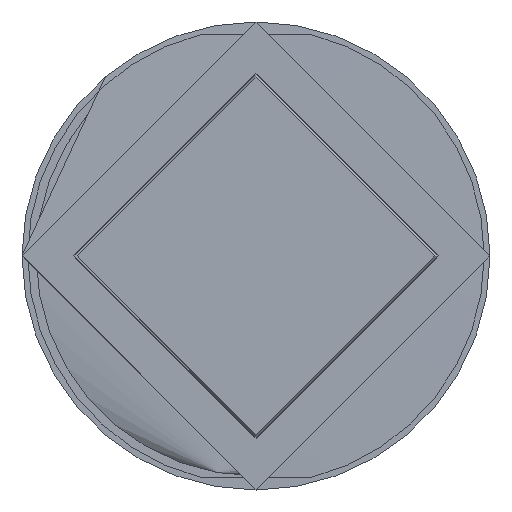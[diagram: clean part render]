
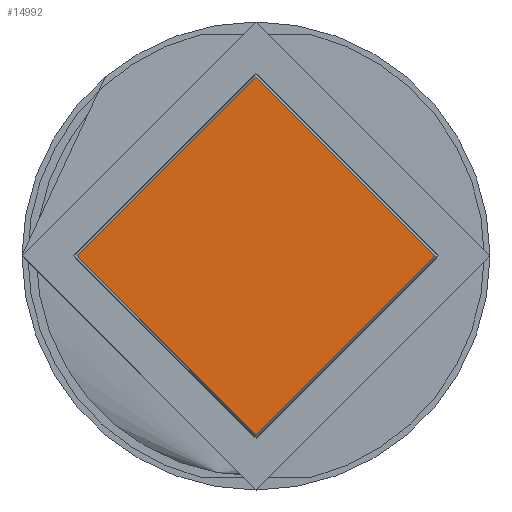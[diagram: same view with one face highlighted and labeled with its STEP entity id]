
A CAD part, top view. The second image highlights one B-rep face of the part: STEP entity #14992.
In plain terms, the highlighted planar face has unit normal (0, 0, 1).
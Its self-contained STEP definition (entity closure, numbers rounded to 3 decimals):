
#2732=ORIENTED_EDGE('',*,*,#7464,.T.);
#7464=EDGE_CURVE('',#9835,#9835,#11239,.T.);
#9835=VERTEX_POINT('',#29612);
#11239=CIRCLE('',#23147,32.25);
#12321=EDGE_LOOP('',(#2732));
#13542=FACE_BOUND('',#12321,.T.);
#14735=PLANE('',#23146);
#14992=ADVANCED_FACE('',(#13542),#14735,.T.);
#23146=AXIS2_PLACEMENT_3D('',#29610,#25144,#25145);
#23147=AXIS2_PLACEMENT_3D('',#29611,#25146,#25147);
#25144=DIRECTION('',(0.,0.,1.));
#25145=DIRECTION('',(0.,-1.,0.));
#25146=DIRECTION('',(0.,0.,1.));
#25147=DIRECTION('',(0.,-1.,0.));
#29610=CARTESIAN_POINT('',(0.,0.,5.18));
#29611=CARTESIAN_POINT('',(0.,0.,5.18));
#29612=CARTESIAN_POINT('',(0.,-32.25,5.18));
